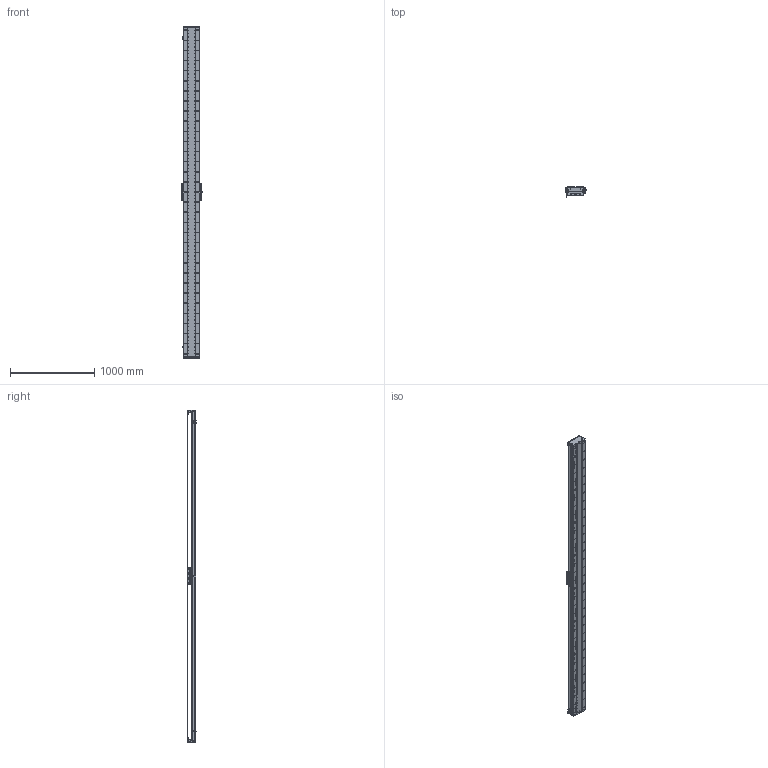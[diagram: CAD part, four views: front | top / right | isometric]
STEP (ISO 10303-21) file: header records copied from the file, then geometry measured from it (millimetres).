
FILE_DESCRIPTION (( 'STEP AP203' ), '1' );
FILE_NAME ('DA-C195-C2-T3660-C010-0.2 眻盄萇儂.STEP', '2025-08-15T01:21:04', ( '' ), ( '' ), 'SwSTEP 2.0', 'SolidWorks 2019', '' );
FILE_SCHEMA (( 'CONFIG_CONTROL_DESIGN' ));
Length unit declared in the file: millimetre
Products named in the file (15): CU195-C2賑輸-俋楷; MS200 棠掑喜S315-T1740; DA-C195-GD-DB-H-00 傷啣; DA95-HXJ-00 遣喳砎蝶; 葩璃 DA95-GT-T-00; DA165-GYP-00 光电感应片(默认); DA195詩湍嶺輸; IU-CU195-L-00 菁釱(L3900); LMT黍杅芛; DA195詩湍郪璃; DA195詩湍裔啣; DA-C195-C2-T3660-C010-0.2 眻盄萇儂; PM-T45ㄗ侂狟ㄘ; DA195詩湍菜輸; IU-CU195-L 菁釱絳寢
Assembly tree (29 placements, depth 3):
  DA-C195-C2-T3660-C010-0.2 眻盄萇儂
    DA195詩湍郪璃
      DA195詩湍菜輸  x2
      DA195詩湍裔啣
      DA195詩湍嶺輸  x2
      DA95-HXJ-00 遣喳砎蝶  x8
      DA-C195-GD-DB-H-00 傷啣  x2
    IU-CU195-L 菁釱絳寢
      IU-CU195-L-00 菁釱(L3900)
      葩璃 DA95-GT-T-00  x4
    LMT黍杅芛
    MS200 棠掑喜S315-T1740
    PM-T45ㄗ侂狟ㄘ  x3
    DA165-GYP-00 光电感应片(默认)
    CU195-C2賑輸-俋楷
Bounding box: 248 x 115.45 x 3940 mm (x, y, z)
Volume: 21690332.3 mm3; surface area: 6503199.9 mm2
Topology: 66 solids, 130 shells, 4944 faces, 14395 edges, 9143 vertices
Faces by surface type: cylinder 2903, plane 1423, cone 530, torus 52, sphere 36
Entity records: 169467 total; most frequent: CARTESIAN_POINT 49630, ORIENTED_EDGE 25674, DIRECTION 23736, EDGE_CURVE 12837, AXIS2_PLACEMENT_3D 8949, VERTEX_POINT 8345, VECTOR 5838, LINE 5838
